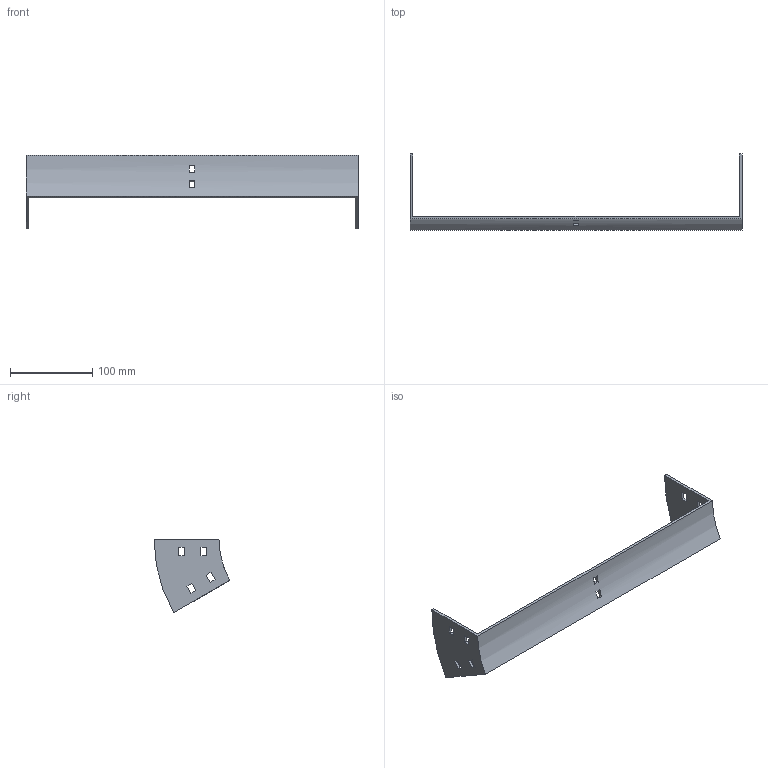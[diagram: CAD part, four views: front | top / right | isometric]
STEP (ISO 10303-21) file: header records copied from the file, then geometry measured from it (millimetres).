
FILE_DESCRIPTION (( 'STEP AP214' ), '1' );
FILE_NAME ('35B1C400.step', '2025-02-21T09:26:35', ( '' ), ( '' ), 'SwSTEP 2.0', 'SolidWorks 2023', '' );
FILE_SCHEMA (( 'AUTOMOTIVE_DESIGN' ));
Length unit declared in the file: millimetre
Products named in the file (1): 35B1C400
Bounding box: 404 x 92.4 x 89.5 mm (x, y, z)
Volume: 112044.3 mm3; surface area: 69732.1 mm2
Topology: 1 solids, 1 shells, 50 faces, 144 edges, 96 vertices
Faces by surface type: plane 46, cylinder 4
Entity records: 1687 total; most frequent: CARTESIAN_POINT 291, ORIENTED_EDGE 288, DIRECTION 262, EDGE_CURVE 144, VECTOR 128, LINE 128, VERTEX_POINT 96, EDGE_LOOP 70
